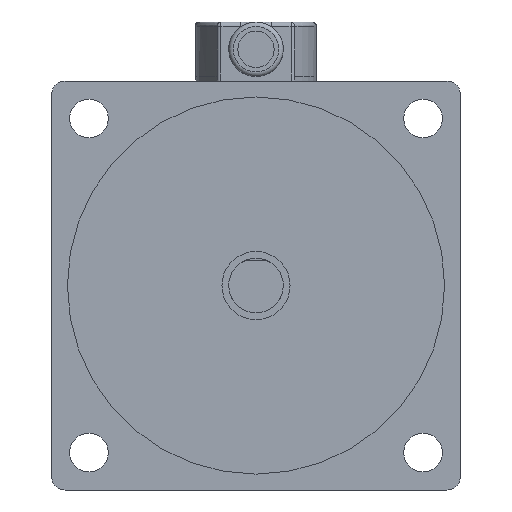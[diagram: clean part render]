
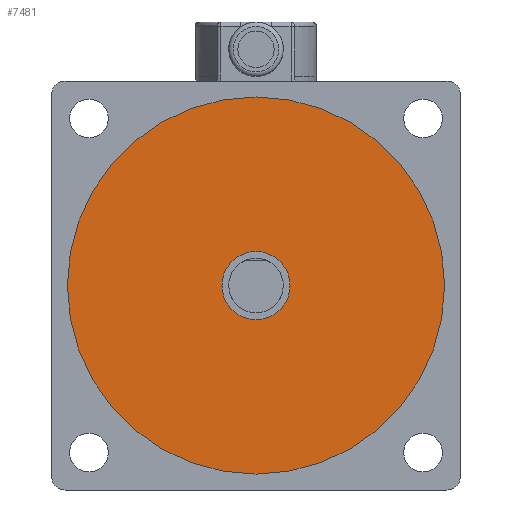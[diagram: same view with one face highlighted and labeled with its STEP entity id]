
A CAD part, front view. The second image highlights one B-rep face of the part: STEP entity #7481.
In plain terms, the highlighted planar face has unit normal (0, -1, 0).
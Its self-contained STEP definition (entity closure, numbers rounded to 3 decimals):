
#1372=ORIENTED_EDGE('',*,*,#2903,.T.);
#1373=ORIENTED_EDGE('',*,*,#2902,.F.);
#2902=EDGE_CURVE('',#3662,#3662,#4170,.T.);
#2903=EDGE_CURVE('',#3663,#3663,#4171,.T.);
#3662=VERTEX_POINT('',#9903);
#3663=VERTEX_POINT('',#9906);
#4170=CIRCLE('',#7850,41.5);
#4171=CIRCLE('',#7852,7.5);
#4340=EDGE_LOOP('',(#1372));
#4341=EDGE_LOOP('',(#1373));
#4738=FACE_BOUND('',#4340,.T.);
#4739=FACE_BOUND('',#4341,.T.);
#5125=PLANE('',#7851);
#7481=ADVANCED_FACE('',(#4738,#4739),#5125,.F.);
#7850=AXIS2_PLACEMENT_3D('',#9902,#8403,#8404);
#7851=AXIS2_PLACEMENT_3D('',#9904,#8405,#8406);
#7852=AXIS2_PLACEMENT_3D('',#9905,#8407,#8408);
#8403=DIRECTION('',(0.,1.,0.));
#8404=DIRECTION('',(1.,0.,0.));
#8405=DIRECTION('',(0.,1.,0.));
#8406=DIRECTION('',(0.,0.,1.));
#8407=DIRECTION('',(0.,1.,0.));
#8408=DIRECTION('',(0.,0.,1.));
#9902=CARTESIAN_POINT('',(0.,-12.,0.));
#9903=CARTESIAN_POINT('',(41.5,-12.,0.));
#9904=CARTESIAN_POINT('',(0.,-12.,0.));
#9905=CARTESIAN_POINT('',(0.,-12.,0.));
#9906=CARTESIAN_POINT('',(0.,-12.,7.5));
